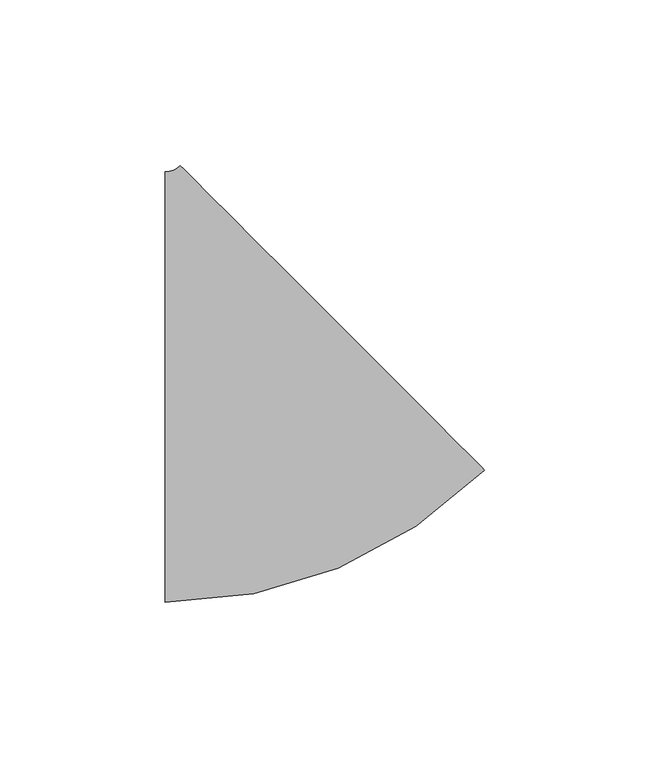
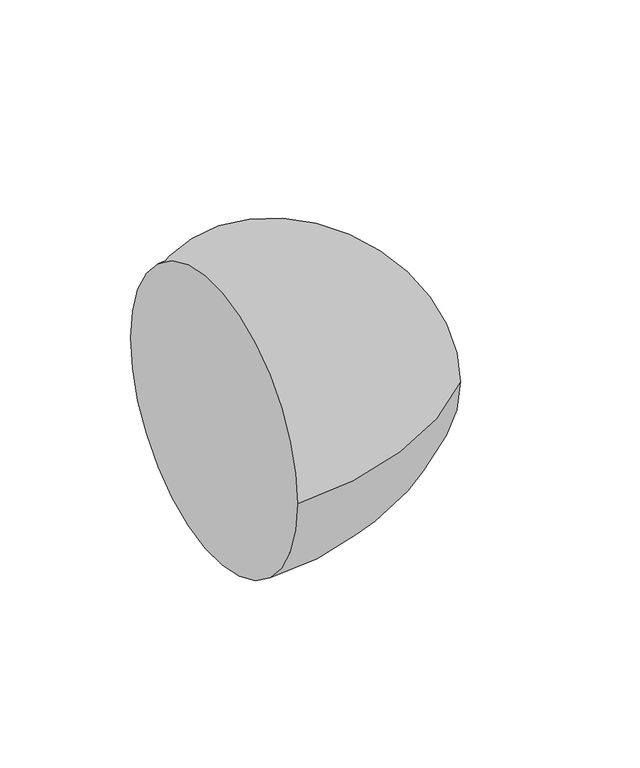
"""IFC4 building model written with IfcOpenShell, lengths in millimetres: pipe fitting geometry, M_Codo - Genérico : Estándar."""

from ifc_helpers import new_model, si_unit, point, frame, origin, place, context, project, spatial, circle_curve, ellipse_curve, trimmed, source, transform, mapped, element, save
from ifc_brep_helpers import plane_surface, revolved_surface, advanced_brep


def pipe_fitting_19d05a80(model_context):
    return source(origin(), model_context, "Body", "AdvancedBrep", [
        advanced_brep(
        [(-29.5873801, -65.0875, 0.0), (-29.5873801, 65.0875, 0.0), (66.9434492, -25.1071769, 0.0), (-25.0975741, 66.9470499, 0.0)],
        [
            (0, 1, circle_curve(frame((-29.5873801, 0.0, 0.0), z_axis=(-1.0, 0.0, 0.0), x_axis=(0.0, 1.0, 0.0)), 65.0875)),
            (1, 0, circle_curve(frame((-29.5873801, 0.0, 0.0), z_axis=(-1.0, 0.0, 0.0), x_axis=(0.0, 1.0, 0.0)), 65.0875)),
            (2, 3, circle_curve(frame((20.9229375, 20.9199365, 0.0), z_axis=(0.707157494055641, 0.7070560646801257, 0.0), x_axis=(-0.7070560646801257, 0.707157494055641, 0.0)), 65.0875)),
            (3, 2, circle_curve(frame((20.9229375, 20.9199365, 0.0), z_axis=(0.707157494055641, 0.7070560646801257, 0.0), x_axis=(-0.7070560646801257, 0.707157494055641, 0.0)), 65.0875)),
            (3, 1, circle_curve(frame((-29.5873801, 71.4375, 0.0), z_axis=(0.0, 0.0, -1.0), x_axis=(0.0, -1.0, 0.0)), 6.35)),
            (0, 2, circle_curve(frame((-29.5873801, 71.4375, 0.0), z_axis=(0.0, 0.0, 1.0), x_axis=(0.0, -1.0, 0.0)), 136.525)),
        ],
        [
            plane_surface(frame((-29.5873801, 0.0, 0.0), z_axis=(-1.0, 0.0, 0.0), x_axis=(0.0, 0.0, 1.0))),
            plane_surface(frame((20.9229375, 20.9199365, 0.0), z_axis=(0.7071574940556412, 0.7070560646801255, 0.0), x_axis=(0.0, 0.0, 1.0))),
            revolved_surface(trimmed(ellipse_curve(frame((-29.5873801, 0.0, 0.0), z_axis=(-1.0, 0.0, 0.0), x_axis=(0.0, 1.0, 0.0)), 65.0875, 65.0875), [point((-29.5873801, -65.0875, 0.0))], [point((-29.5873801, 65.0875, 0.0))], True, "CARTESIAN"), (-29.5873801, 71.4375, 0.0), (0.0, 0.0, 1.0)),
            revolved_surface(trimmed(ellipse_curve(frame((-29.5873801, 0.0, 0.0), z_axis=(-1.0, 0.0, 0.0), x_axis=(0.0, 1.0, 0.0)), 65.0875, 65.0875), [point((-29.5873801, 65.0875, 0.0))], [point((-29.5873801, -65.0875, 0.0))], True, "CARTESIAN"), (-29.5873801, 71.4375, 0.0), (0.0, 0.0, 1.0)),
        ],
        [
            (0, [[1, 2]]),
            (1, [[3, 4]]),
            (2, [[5, -1, 6, -4]]),
            (3, [[-6, -2, -5, -3]]),
        ],
    ),
    ])


if __name__ == "__main__":
    model = new_model("IFC4")
    model_context = context("Model", 3, world=origin())
    ifc_project = project(units=[si_unit("LENGTHUNIT", "METRE", prefix="MILLI")], contexts=[model_context])
    site = spatial("IfcSite", under=ifc_project)
    building = spatial("IfcBuilding", under=site)
    placement = place(None, origin())
    pipe_fitting_shape = pipe_fitting_19d05a80(model_context)
    element("IfcPipeFitting", 1, ObjectType="M_Codo - Genérico : Estándar", at=placement, inside=building, context=model_context, shape_type="MappedRepresentation", body=[
        mapped(pipe_fitting_shape, transform((0.0, 0.0, 0.0), x_axis=(1.0, 0.0, 0.0), y_axis=(0.0, 1.0, 0.0), z_axis=(0.0, 0.0, 1.0))),
    ])
    save(model, "model.ifc")
